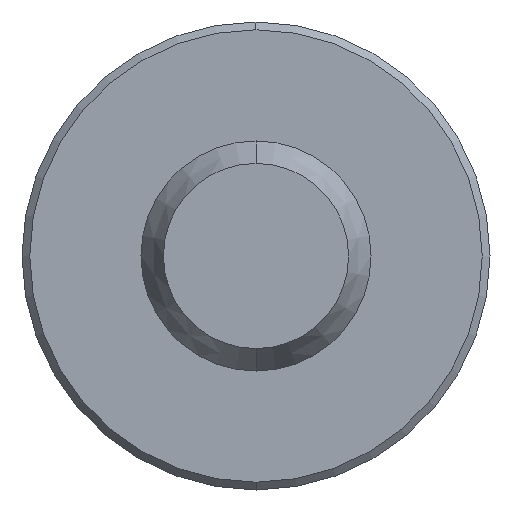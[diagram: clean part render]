
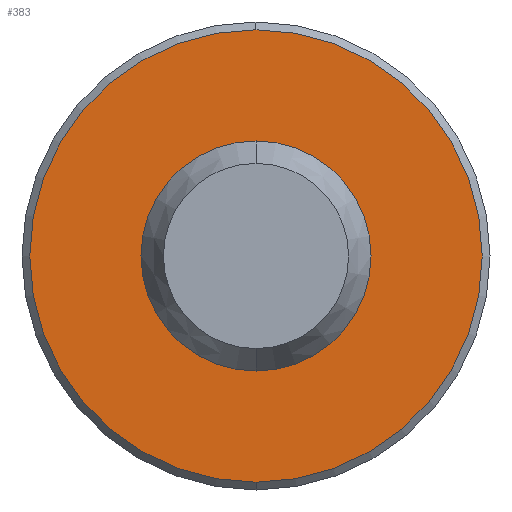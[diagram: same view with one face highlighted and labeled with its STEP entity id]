
A CAD part, front view. The second image highlights one B-rep face of the part: STEP entity #383.
In plain terms, the highlighted planar face has unit normal (0, -1, 0).
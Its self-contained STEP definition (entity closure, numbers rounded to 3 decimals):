
#94=CARTESIAN_POINT('',(0.,-12.,0.));
#95=DIRECTION('',(0.,-1.,0.));
#96=DIRECTION('',(0.,0.,-1.));
#97=AXIS2_PLACEMENT_3D('',#94,#95,#96);
#99=CARTESIAN_POINT('',(0.,-12.,0.));
#100=DIRECTION('',(0.,1.,0.));
#101=DIRECTION('',(0.,0.,-1.));
#102=AXIS2_PLACEMENT_3D('',#99,#100,#101);
#109=CARTESIAN_POINT('',(0.,-12.,0.));
#110=DIRECTION('',(0.,1.,0.));
#111=DIRECTION('',(0.,0.,-1.));
#112=AXIS2_PLACEMENT_3D('',#109,#110,#111);
#131=CARTESIAN_POINT('',(0.,-12.,0.));
#132=DIRECTION('',(0.,-1.,0.));
#133=DIRECTION('',(0.,0.,-1.));
#134=AXIS2_PLACEMENT_3D('',#131,#132,#133);
#169=CARTESIAN_POINT('',(0.,-12.,-2.95));
#171=VERTEX_POINT('',#169);
#173=CARTESIAN_POINT('',(0.,-12.,2.95));
#175=VERTEX_POINT('',#173);
#192=CARTESIAN_POINT('',(0.,-12.,-5.8));
#193=CARTESIAN_POINT('',(0.,-12.,5.8));
#194=VERTEX_POINT('',#192);
#195=VERTEX_POINT('',#193);
#368=CARTESIAN_POINT('',(0.,-12.,0.));
#369=DIRECTION('',(0.,-1.,0.));
#370=DIRECTION('',(0.,0.,1.));
#371=AXIS2_PLACEMENT_3D('',#368,#369,#370);
#372=PLANE('101',#371);
#374=ORIENTED_EDGE('276',*,*,#373,.T.);
#376=ORIENTED_EDGE('279',*,*,#375,.F.);
#377=EDGE_LOOP('101',(#374,#376));
#378=FACE_OUTER_BOUND('101',#377,.F.);
#379=ORIENTED_EDGE('135',*,*,#363,.T.);
#380=ORIENTED_EDGE('153',*,*,#347,.F.);
#381=EDGE_LOOP('101',(#379,#380));
#382=FACE_BOUND('101',#381,.F.);
#383=ADVANCED_FACE('101',(#378,#382),#372,.T.);
#98=CIRCLE('135',#97,2.95);
#103=CIRCLE('153',#102,2.95);
#113=CIRCLE('276',#112,5.8);
#135=CIRCLE('279',#134,5.8);
#347=EDGE_CURVE('153',#171,#175,#103,.T.);
#363=EDGE_CURVE('135',#171,#175,#98,.T.);
#373=EDGE_CURVE('276',#194,#195,#113,.T.);
#375=EDGE_CURVE('279',#194,#195,#135,.T.);
